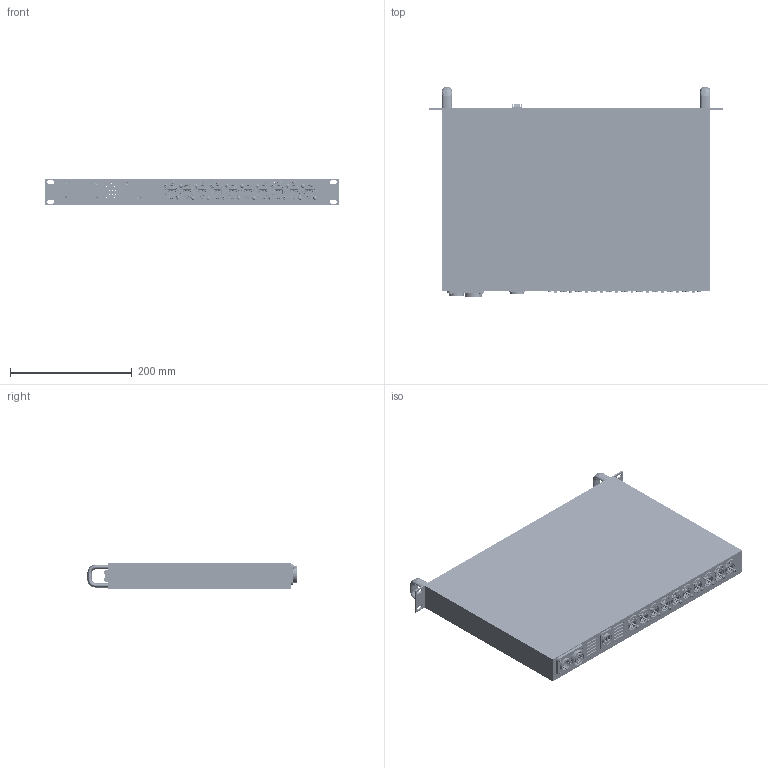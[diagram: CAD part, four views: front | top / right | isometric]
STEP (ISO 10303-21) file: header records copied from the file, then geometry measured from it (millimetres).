
FILE_DESCRIPTION (( 'STEP AP214' ), '1' );
FILE_NAME ('T10 OUTLINE 021821.STEP', '2021-02-18T16:00:38', ( '' ), ( '' ), 'SwSTEP 2.0', 'SolidWorks 2019', '' );
FILE_SCHEMA (( 'AUTOMOTIVE_DESIGN' ));
Length unit declared in the file: millimetre
Products named in the file (18): T10 OUTLINE 021821; LED odd_Red; 572-5409; SWITCH odd; B18.6.7M - M3 x 0.5 x 6 Type I Cross Recessed PHMS --6N BLK_B18.6.7M - M3 x 0.5 x 6 Type I Cross Recessed PHMS --6N; t10 base; t10 front plate; T10 base encl; t10 right rail; B18.6.7M - M3 x 0.5 x 6 Type I Cross Recessed FHMS --6N BLK_PreviewCfg; nac3px-top-4 (Neutrik); t10 rear plate; 3-d-no2-4fdw-a (Neutrik); t10 left rail; t10 lid; NEUTRIK02-01_6; 1u handle odd; LED odd_Green
Assembly tree (61 placements, depth 3):
  T10 OUTLINE 021821
    T10 base encl
      LED odd_Green  x11
      SWITCH odd
      nac3px-top-4 (Neutrik)
      NEUTRIK02-01_6  x10
      3-d-no2-4fdw-a (Neutrik)
      LED odd_Red
      t10 rear plate
      t10 right rail
      t10 left rail
      t10 base
      t10 lid
      572-5409
      t10 front plate
      1u handle odd  x2
      B18.6.7M - M3 x 0.5 x 6 Type I Cross Recessed FHMS --6N BLK_PreviewCfg  x6
      B18.6.7M - M3 x 0.5 x 6 Type I Cross Recessed PHMS --6N BLK_B18.6.7M - M3 x 0.5 x 6 Type I Cross Recessed PHMS --6N  x20
Bounding box: 482.6 x 344.95 x 44 mm (x, y, z)
Volume: 536971.6 mm3; surface area: 790411.3 mm2
Topology: 90 solids, 90 shells, 11806 faces, 29441 edges, 17924 vertices
Faces by surface type: cylinder 4167, plane 3901, bspline 2225, torus 1125, sphere 364, cone 24
Entity records: 188823 total; most frequent: CARTESIAN_POINT 71714, ORIENTED_EDGE 18788, DIRECTION 15432, EDGE_CURVE 9394, VERTEX_POINT 6073, VECTOR 5702, LINE 5702, AXIS2_PLACEMENT_3D 4865
